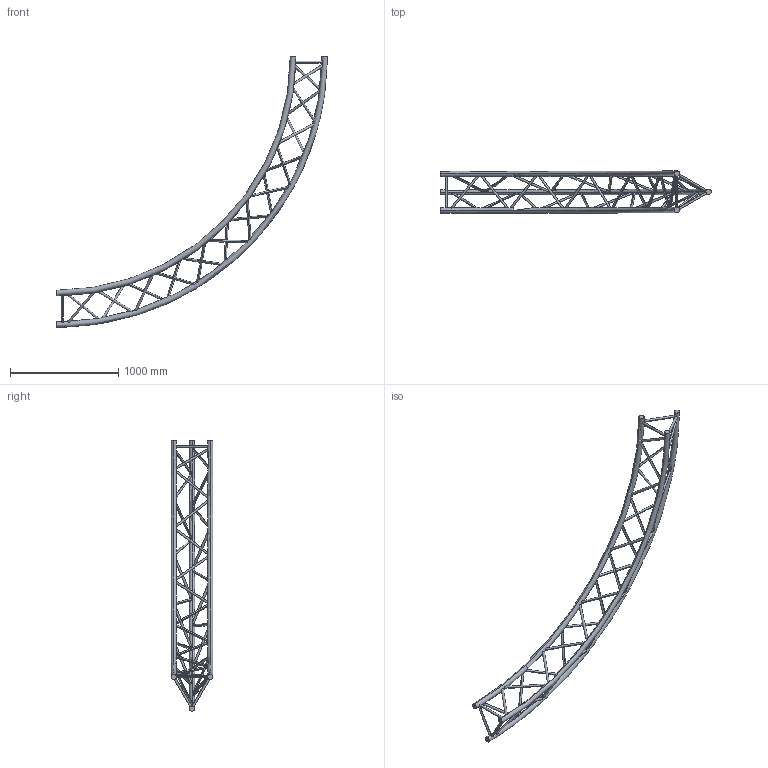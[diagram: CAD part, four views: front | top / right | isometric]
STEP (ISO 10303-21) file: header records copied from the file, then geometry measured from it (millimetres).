
FILE_DESCRIPTION (( 'STEP AP203' ), '1' );
FILE_NAME ('SXC39500PE.STEP', '2009-10-21T12:13:53', ( 'CEDIA' ), ( 'CEDIA INDUSTRIE' ), 'SwSTEP 2.0', 'SolidWorks 2009', '' );
FILE_SCHEMA (( 'CONFIG_CONTROL_DESIGN' ));
Length unit declared in the file: millimetre
Products named in the file (1): SXC39500PE
Bounding box: 2500 x 387 x 2500 mm (x, y, z)
Volume: 25908929.5 mm3; surface area: 2631539.6 mm2
Topology: 1 solids, 1 shells, 96 faces, 273 edges, 182 vertices
Faces by surface type: cylinder 84, torus 6, plane 6
Entity records: 11238 total; most frequent: CARTESIAN_POINT 8820, ORIENTED_EDGE 546, DIRECTION 314, EDGE_CURVE 273, VERTEX_POINT 182, EDGE_LOOP 179, B_SPLINE_CURVE_WITH_KNOTS 171, AXIS2_PLACEMENT_3D 115
